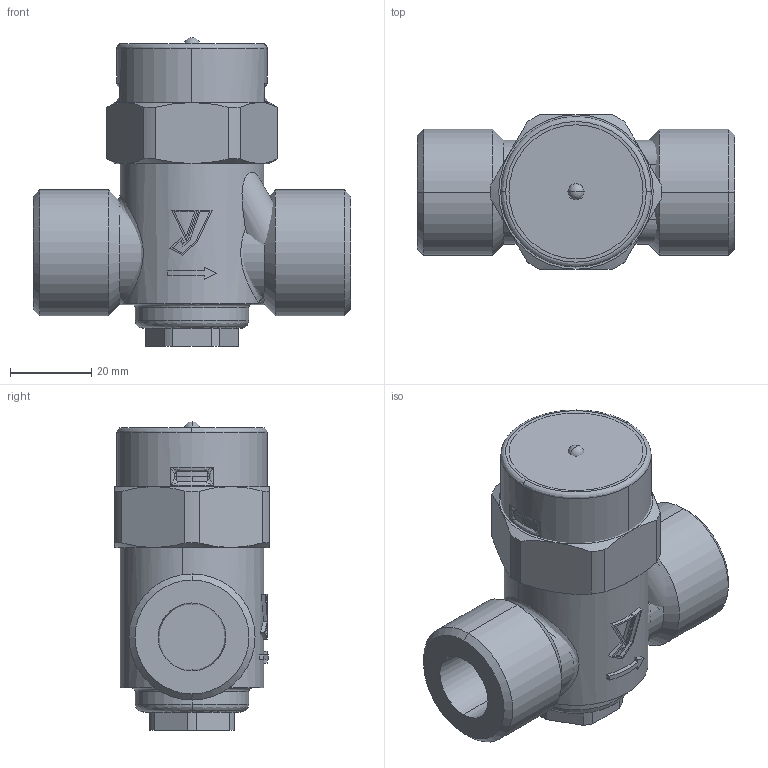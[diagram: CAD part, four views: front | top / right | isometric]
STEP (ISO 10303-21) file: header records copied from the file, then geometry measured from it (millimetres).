
FILE_DESCRIPTION( (''), '2;1');
FILE_NAME ('PC2091.10192.TSD-42 10A_23199.stp','2026-03-06T09:39:05',(''),(''),'spGate 20.6.3 (****-****-****-****)','','');
FILE_SCHEMA (('AUTOMOTIVE_DESIGN'));
Length unit declared in the file: millimetre
Products named in the file (9): Assembly; TSD-42 Rc部; TSD-42F 15A  本体　3D; TSD-42F キャップA 3D; TSD-42F strainer cap; TSD-42F 銘板鋲; TSD-42F 銘板　3D; TSD-42F 保温カバー　3D; TSD-42 Rc部_mr
Assembly tree (8 placements, depth 2):
  Assembly
    TSD-42 Rc部
    TSD-42F 15A  本体　3D
    TSD-42F キャップA 3D
    TSD-42F strainer cap
    TSD-42F 銘板鋲
    TSD-42F 銘板　3D
    TSD-42F 保温カバー　3D
    TSD-42 Rc部_mr
Bounding box: 78 x 38 x 76 mm (x, y, z)
Volume: 113277.3 mm3; surface area: 36697.7 mm2
Topology: 8 solids, 8 shells, 276 faces, 638 edges, 380 vertices
Faces by surface type: bspline 101, cylinder 96, plane 77, sphere 2
Entity records: 15182 total; most frequent: CARTESIAN_POINT 4506, ORIENTED_EDGE 1232, DIRECTION 986, COLOUR_RGB 900, PRESENTATION_STYLE_ASSIGNMENT 900, STYLED_ITEM 900, EDGE_CURVE 616, DRAUGHTING_PRE_DEFINED_CURVE_FONT 616
